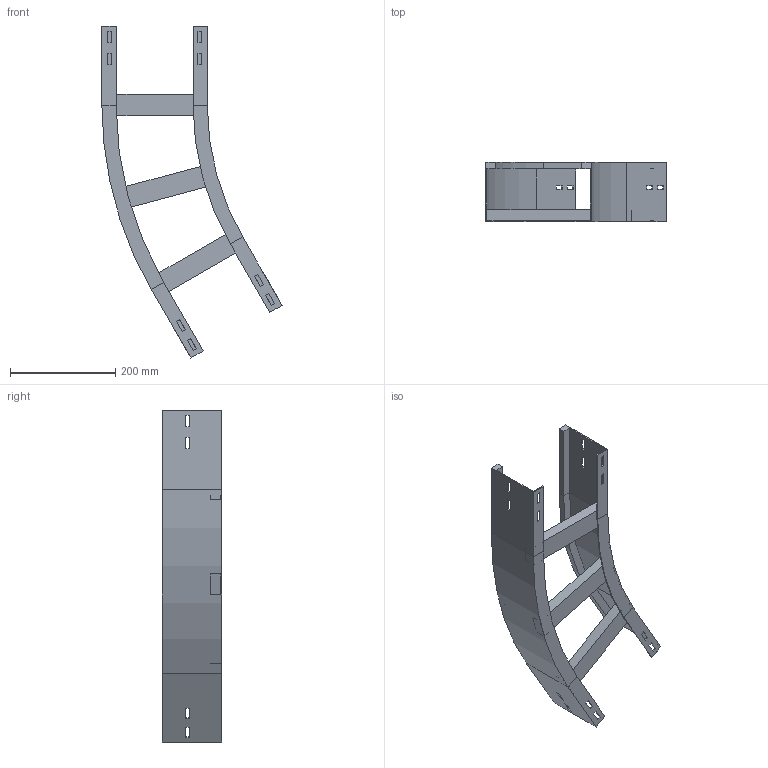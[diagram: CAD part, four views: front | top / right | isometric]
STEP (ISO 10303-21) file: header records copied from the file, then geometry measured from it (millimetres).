
FILE_DESCRIPTION (( 'STEP AP214' ), '1' );
FILE_NAME ('12B5J200.step', '2025-02-21T15:08:14', ( '' ), ( '' ), 'SwSTEP 2.0', 'SolidWorks 2023', '' );
FILE_SCHEMA (( 'AUTOMOTIVE_DESIGN' ));
Length unit declared in the file: millimetre
Products named in the file (4): A2_LONGH.ESTERNO 30°_H112.5_R500+200; 12B5J200; A2_LONGH.INTERNO 30°_H112.5_R500; TRAVERSINO_200
Assembly tree (5 placements, depth 2):
  12B5J200
    A2_LONGH.INTERNO 30°_H112.5_R500
    A2_LONGH.ESTERNO 30°_H112.5_R500+200
    TRAVERSINO_200  x3
Bounding box: 341.99 x 112.5 x 629.9 mm (x, y, z)
Volume: 1044976.8 mm3; surface area: 456811.1 mm2
Topology: 5 solids, 5 shells, 134 faces, 340 edges, 216 vertices
Faces by surface type: plane 126, cylinder 8
Entity records: 3821 total; most frequent: CARTESIAN_POINT 646, ORIENTED_EDGE 632, DIRECTION 592, EDGE_CURVE 316, VECTOR 300, LINE 300, VERTEX_POINT 200, EDGE_LOOP 154
